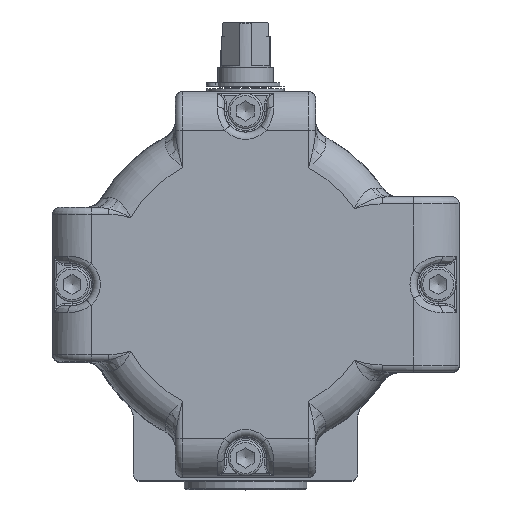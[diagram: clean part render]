
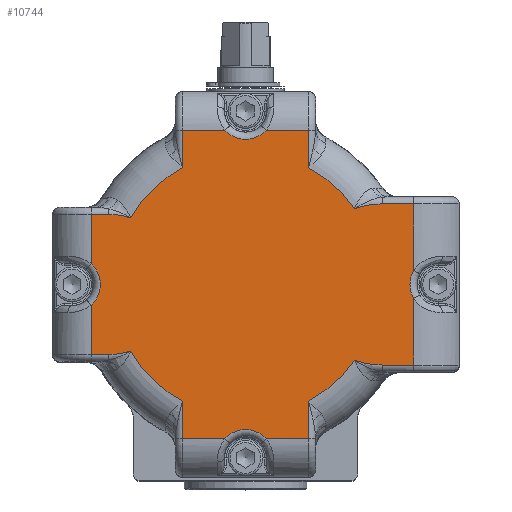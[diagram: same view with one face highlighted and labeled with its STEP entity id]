
A CAD part, top view. The second image highlights one B-rep face of the part: STEP entity #10744.
In plain terms, the highlighted planar face has unit normal (0, 0, 1).
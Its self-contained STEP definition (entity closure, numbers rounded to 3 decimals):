
#5971=CARTESIAN_POINT('',(-5.918,-44.,69.65));
#5972=VERTEX_POINT('',#5971);
#5981=CARTESIAN_POINT('',(-18.,-44.0,69.65));
#5982=VERTEX_POINT('',#5981);
#5983=CARTESIAN_POINT('',(-18.,-44.0,69.65));
#5984=DIRECTION('',(1.0,0.0,0.0));
#5985=VECTOR('',#5984,12.082);
#5986=LINE('',#5983,#5985);
#5987=EDGE_CURVE('',#5982,#5972,#5986,.T.);
#6006=CARTESIAN_POINT('',(18.,-44.0,69.65));
#6007=VERTEX_POINT('',#6006);
#6015=CARTESIAN_POINT('',(5.918,-44.0,69.65));
#6016=VERTEX_POINT('',#6015);
#6017=CARTESIAN_POINT('',(5.918,-44.0,69.65));
#6018=DIRECTION('',(1.0,0.0,0.0));
#6019=VECTOR('',#6018,12.082);
#6020=LINE('',#6017,#6019);
#6021=EDGE_CURVE('',#6016,#6007,#6020,.T.);
#6418=CARTESIAN_POINT('',(-44.,5.918,69.65));
#6419=VERTEX_POINT('',#6418);
#6428=CARTESIAN_POINT('',(-44.,20.0,69.65));
#6429=VERTEX_POINT('',#6428);
#6430=CARTESIAN_POINT('',(-44.,20.0,69.65));
#6431=DIRECTION('',(0.0,-1.0,0.0));
#6432=VECTOR('',#6431,14.082);
#6433=LINE('',#6430,#6432);
#6434=EDGE_CURVE('',#6429,#6419,#6433,.T.);
#6453=CARTESIAN_POINT('',(-44.,-20.0,69.65));
#6454=VERTEX_POINT('',#6453);
#6462=CARTESIAN_POINT('',(-44.,-5.918,69.65));
#6463=VERTEX_POINT('',#6462);
#6464=CARTESIAN_POINT('',(-44.,-5.918,69.65));
#6465=DIRECTION('',(0.0,-1.0,0.0));
#6466=VECTOR('',#6465,14.082);
#6467=LINE('',#6464,#6466);
#6468=EDGE_CURVE('',#6463,#6454,#6467,.T.);
#6865=CARTESIAN_POINT('',(5.918,44.0,69.65));
#6866=VERTEX_POINT('',#6865);
#6875=CARTESIAN_POINT('',(18.,44.0,69.65));
#6876=VERTEX_POINT('',#6875);
#6877=CARTESIAN_POINT('',(5.918,44.0,69.65));
#6878=DIRECTION('',(1.0,0.0,0.0));
#6879=VECTOR('',#6878,12.082);
#6880=LINE('',#6877,#6879);
#6881=EDGE_CURVE('',#6866,#6876,#6880,.T.);
#6900=CARTESIAN_POINT('',(-18.,44.0,69.65));
#6901=VERTEX_POINT('',#6900);
#6909=CARTESIAN_POINT('',(-5.918,44.0,69.65));
#6910=VERTEX_POINT('',#6909);
#6911=CARTESIAN_POINT('',(-18.,44.0,69.65));
#6912=DIRECTION('',(1.0,0.0,0.0));
#6913=VECTOR('',#6912,12.082);
#6914=LINE('',#6911,#6913);
#6915=EDGE_CURVE('',#6901,#6910,#6914,.T.);
#7352=CARTESIAN_POINT('',(48.,-4.033,69.65));
#7353=VERTEX_POINT('',#7352);
#7363=CARTESIAN_POINT('',(48.,-23.0,69.65));
#7364=VERTEX_POINT('',#7363);
#7365=CARTESIAN_POINT('',(48.,-4.033,69.65));
#7366=DIRECTION('',(0.0,-1.0,0.0));
#7367=VECTOR('',#7366,18.967);
#7368=LINE('',#7365,#7367);
#7369=EDGE_CURVE('',#7353,#7364,#7368,.T.);
#7388=CARTESIAN_POINT('',(48.,23.0,69.65));
#7389=VERTEX_POINT('',#7388);
#7397=CARTESIAN_POINT('',(48.,4.033,69.65));
#7398=VERTEX_POINT('',#7397);
#7399=CARTESIAN_POINT('',(48.,23.0,69.65));
#7400=DIRECTION('',(0.0,-1.0,0.0));
#7401=VECTOR('',#7400,18.967);
#7402=LINE('',#7399,#7401);
#7403=EDGE_CURVE('',#7389,#7398,#7402,.T.);
#7469=CARTESIAN_POINT('',(0.,49.5,69.65));
#7470=DIRECTION('',(0.0,0.0,1.0));
#7471=DIRECTION('',(0.0,-1.0,0.0));
#7472=AXIS2_PLACEMENT_3D('',#7469,#7470,#7471);
#7473=CIRCLE('',#7472,8.079);
#7474=EDGE_CURVE('',#6910,#6866,#7473,.T.);
#7570=CARTESIAN_POINT('',(55.,0.0,69.65));
#7571=DIRECTION('',(0.0,0.0,1.0));
#7572=DIRECTION('',(-1.0,0.,0.0));
#7573=AXIS2_PLACEMENT_3D('',#7570,#7571,#7572);
#7574=CIRCLE('',#7573,8.079);
#7575=EDGE_CURVE('',#7398,#7353,#7574,.T.);
#7671=CARTESIAN_POINT('',(0.,-49.5,69.65));
#7672=DIRECTION('',(0.0,0.0,1.0));
#7673=DIRECTION('',(0.0,1.0,0.0));
#7674=AXIS2_PLACEMENT_3D('',#7671,#7672,#7673);
#7675=CIRCLE('',#7674,8.079);
#7676=EDGE_CURVE('',#6016,#5972,#7675,.T.);
#7767=CARTESIAN_POINT('',(-49.5,0.0,69.65));
#7768=DIRECTION('',(0.0,0.0,1.0));
#7769=DIRECTION('',(1.0,0.0,0.0));
#7770=AXIS2_PLACEMENT_3D('',#7767,#7768,#7769);
#7771=CIRCLE('',#7770,8.079);
#7772=EDGE_CURVE('',#6463,#6419,#7771,.T.);
#7992=CARTESIAN_POINT('',(18.,-33.32,69.65));
#7993=VERTEX_POINT('',#7992);
#8267=CARTESIAN_POINT('',(18.,-33.32,69.65));
#8268=DIRECTION('',(0.0,-1.0,0.0));
#8269=VECTOR('',#8268,10.68);
#8270=LINE('',#8267,#8269);
#8271=EDGE_CURVE('',#7993,#6007,#8270,.T.);
#8319=CARTESIAN_POINT('',(31.105,-21.603,69.65));
#8320=VERTEX_POINT('',#8319);
#8332=CARTESIAN_POINT('',(0.,0.0,69.65));
#8333=DIRECTION('',(0.0,0.0,-1.0));
#8334=DIRECTION('',(-1.0,0.0,0.0));
#8335=AXIS2_PLACEMENT_3D('',#8332,#8333,#8334);
#8336=CIRCLE('',#8335,37.871);
#8337=EDGE_CURVE('',#8320,#7993,#8336,.T.);
#8541=CARTESIAN_POINT('',(-18.,-33.32,69.65));
#8542=VERTEX_POINT('',#8541);
#8681=CARTESIAN_POINT('',(-32.759,-19.001,69.65));
#8682=VERTEX_POINT('',#8681);
#8683=CARTESIAN_POINT('',(0.,0.0,69.65));
#8684=DIRECTION('',(0.0,0.0,-1.0));
#8685=DIRECTION('',(-1.0,0.0,0.0));
#8686=AXIS2_PLACEMENT_3D('',#8683,#8684,#8685);
#8687=CIRCLE('',#8686,37.871);
#8688=EDGE_CURVE('',#8542,#8682,#8687,.T.);
#8759=CARTESIAN_POINT('',(-18.,33.32,69.65));
#8760=VERTEX_POINT('',#8759);
#9020=CARTESIAN_POINT('',(-32.759,19.001,69.65));
#9021=VERTEX_POINT('',#9020);
#9033=CARTESIAN_POINT('',(0.,0.0,69.65));
#9034=DIRECTION('',(0.0,0.0,-1.0));
#9035=DIRECTION('',(-1.0,0.0,0.0));
#9036=AXIS2_PLACEMENT_3D('',#9033,#9034,#9035);
#9037=CIRCLE('',#9036,37.871);
#9038=EDGE_CURVE('',#9021,#8760,#9037,.T.);
#9303=CARTESIAN_POINT('',(18.,33.32,69.65));
#9304=VERTEX_POINT('',#9303);
#9443=CARTESIAN_POINT('',(31.105,21.603,69.65));
#9444=VERTEX_POINT('',#9443);
#9445=CARTESIAN_POINT('',(0.,0.0,69.65));
#9446=DIRECTION('',(0.0,0.0,-1.0));
#9447=DIRECTION('',(-1.0,0.0,0.0));
#9448=AXIS2_PLACEMENT_3D('',#9445,#9446,#9447);
#9449=CIRCLE('',#9448,37.871);
#9450=EDGE_CURVE('',#9304,#9444,#9449,.T.);
#9956=CARTESIAN_POINT('',(39.,-23.0,69.65));
#9957=VERTEX_POINT('',#9956);
#9965=CARTESIAN_POINT('',(39.,0.0,69.65));
#9966=DIRECTION('',(0.0,0.0,-1.0));
#9967=DIRECTION('',(-0.186,-0.983,0.0));
#9968=AXIS2_PLACEMENT_3D('',#9965,#9966,#9967);
#9969=CIRCLE('',#9968,23.0);
#9970=EDGE_CURVE('',#9957,#8320,#9969,.T.);
#9996=CARTESIAN_POINT('',(48.,-23.0,69.65));
#9997=DIRECTION('',(-1.0,0.0,0.0));
#9998=VECTOR('',#9997,9.);
#9999=LINE('',#9996,#9998);
#10000=EDGE_CURVE('',#7364,#9957,#9999,.T.);
#10268=CARTESIAN_POINT('',(-39.,20.0,69.65));
#10269=VERTEX_POINT('',#10268);
#10277=CARTESIAN_POINT('',(-39.,0.0,69.65));
#10278=DIRECTION('',(0.0,0.0,-1.0));
#10279=DIRECTION('',(0.169,0.986,0.0));
#10280=AXIS2_PLACEMENT_3D('',#10277,#10278,#10279);
#10281=CIRCLE('',#10280,20.0);
#10282=EDGE_CURVE('',#10269,#9021,#10281,.T.);
#10308=CARTESIAN_POINT('',(-44.,20.0,69.65));
#10309=DIRECTION('',(1.0,0.0,0.0));
#10310=VECTOR('',#10309,5.);
#10311=LINE('',#10308,#10310);
#10312=EDGE_CURVE('',#6429,#10269,#10311,.T.);
#10663=CARTESIAN_POINT('',(18.,44.0,69.65));
#10664=DIRECTION('',(0.0,-1.0,0.0));
#10665=VECTOR('',#10664,10.68);
#10666=LINE('',#10663,#10665);
#10667=EDGE_CURVE('',#6876,#9304,#10666,.T.);
#10673=CARTESIAN_POINT('',(-18.935,0.0,69.65));
#10674=DIRECTION('',(0.0,0.0,1.0));
#10675=DIRECTION('',(1.0,0.0,0.0));
#10676=AXIS2_PLACEMENT_3D('',#10673,#10674,#10675);
#10677=PLANE('',#10676);
#10678=ORIENTED_EDGE('',*,*,#7474,.F.);
#10679=ORIENTED_EDGE('',*,*,#6915,.F.);
#10680=CARTESIAN_POINT('',(-18.,33.32,69.65));
#10681=DIRECTION('',(0.0,1.0,0.0));
#10682=VECTOR('',#10681,10.68);
#10683=LINE('',#10680,#10682);
#10684=EDGE_CURVE('',#8760,#6901,#10683,.T.);
#10685=ORIENTED_EDGE('',*,*,#10684,.F.);
#10686=ORIENTED_EDGE('',*,*,#9038,.F.);
#10687=ORIENTED_EDGE('',*,*,#10282,.F.);
#10688=ORIENTED_EDGE('',*,*,#10312,.F.);
#10689=ORIENTED_EDGE('',*,*,#6434,.T.);
#10690=ORIENTED_EDGE('',*,*,#7772,.F.);
#10691=ORIENTED_EDGE('',*,*,#6468,.T.);
#10692=CARTESIAN_POINT('',(-39.,-20.0,69.65));
#10693=VERTEX_POINT('',#10692);
#10694=CARTESIAN_POINT('',(-39.,-20.0,69.65));
#10695=DIRECTION('',(-1.0,0.0,0.0));
#10696=VECTOR('',#10695,5.);
#10697=LINE('',#10694,#10696);
#10698=EDGE_CURVE('',#10693,#6454,#10697,.T.);
#10699=ORIENTED_EDGE('',*,*,#10698,.F.);
#10700=CARTESIAN_POINT('',(-39.,0.0,69.65));
#10701=DIRECTION('',(0.0,0.0,-1.0));
#10702=DIRECTION('',(0.169,-0.986,0.0));
#10703=AXIS2_PLACEMENT_3D('',#10700,#10701,#10702);
#10704=CIRCLE('',#10703,20.0);
#10705=EDGE_CURVE('',#8682,#10693,#10704,.T.);
#10706=ORIENTED_EDGE('',*,*,#10705,.F.);
#10707=ORIENTED_EDGE('',*,*,#8688,.F.);
#10708=CARTESIAN_POINT('',(-18.,-44.0,69.65));
#10709=DIRECTION('',(0.0,1.0,0.0));
#10710=VECTOR('',#10709,10.68);
#10711=LINE('',#10708,#10710);
#10712=EDGE_CURVE('',#5982,#8542,#10711,.T.);
#10713=ORIENTED_EDGE('',*,*,#10712,.F.);
#10714=ORIENTED_EDGE('',*,*,#5987,.T.);
#10715=ORIENTED_EDGE('',*,*,#7676,.F.);
#10716=ORIENTED_EDGE('',*,*,#6021,.T.);
#10717=ORIENTED_EDGE('',*,*,#8271,.F.);
#10718=ORIENTED_EDGE('',*,*,#8337,.F.);
#10719=ORIENTED_EDGE('',*,*,#9970,.F.);
#10720=ORIENTED_EDGE('',*,*,#10000,.F.);
#10721=ORIENTED_EDGE('',*,*,#7369,.F.);
#10722=ORIENTED_EDGE('',*,*,#7575,.F.);
#10723=ORIENTED_EDGE('',*,*,#7403,.F.);
#10724=CARTESIAN_POINT('',(39.,23.0,69.65));
#10725=VERTEX_POINT('',#10724);
#10726=CARTESIAN_POINT('',(39.,23.0,69.65));
#10727=DIRECTION('',(1.0,0.0,0.0));
#10728=VECTOR('',#10727,9.0);
#10729=LINE('',#10726,#10728);
#10730=EDGE_CURVE('',#10725,#7389,#10729,.T.);
#10731=ORIENTED_EDGE('',*,*,#10730,.F.);
#10732=CARTESIAN_POINT('',(39.,0.0,69.65));
#10733=DIRECTION('',(0.0,0.0,-1.0));
#10734=DIRECTION('',(-0.186,0.983,0.0));
#10735=AXIS2_PLACEMENT_3D('',#10732,#10733,#10734);
#10736=CIRCLE('',#10735,23.0);
#10737=EDGE_CURVE('',#9444,#10725,#10736,.T.);
#10738=ORIENTED_EDGE('',*,*,#10737,.F.);
#10739=ORIENTED_EDGE('',*,*,#9450,.F.);
#10740=ORIENTED_EDGE('',*,*,#10667,.F.);
#10741=ORIENTED_EDGE('',*,*,#6881,.F.);
#10742=EDGE_LOOP('',(#10678,#10679,#10685,#10686,#10687,#10688,#10689,#10690,#10691,#10699,#10706,#10707,#10713,#10714,#10715,#10716,#10717,#10718,#10719,#10720,#10721,#10722,#10723,#10731,#10738,#10739,#10740,#10741));
#10743=FACE_OUTER_BOUND('',#10742,.T.);
#10744=ADVANCED_FACE('',(#10743),#10677,.T.);
